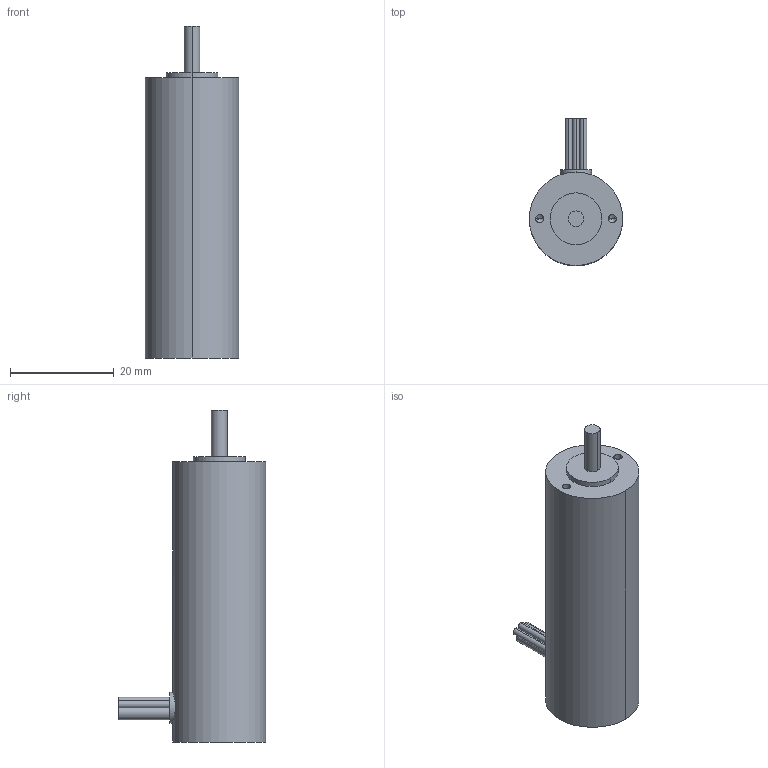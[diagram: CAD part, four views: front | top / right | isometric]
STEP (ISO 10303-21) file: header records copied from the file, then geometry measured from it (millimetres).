
FILE_DESCRIPTION (( 'STEP AP214' ), '1' );
FILE_NAME ('BD-1854.STEP', '2024-10-25T09:06:22', ( '' ), ( '' ), 'SwSTEP 2.0', 'SolidWorks 2024', '' );
FILE_SCHEMA (( 'AUTOMOTIVE_DESIGN' ));
Length unit declared in the file: millimetre
Products named in the file (1): BD-1854
Bounding box: 18 x 28.5 x 64 mm (x, y, z)
Volume: 13982.5 mm3; surface area: 3932.1 mm2
Topology: 1 solids, 1 shells, 33 faces, 69 edges, 42 vertices
Faces by surface type: cylinder 20, plane 9, cone 4
Entity records: 946 total; most frequent: CARTESIAN_POINT 203, DIRECTION 169, ORIENTED_EDGE 130, AXIS2_PLACEMENT_3D 72, EDGE_CURVE 65, VERTEX_POINT 42, EDGE_LOOP 41, CIRCLE 38
